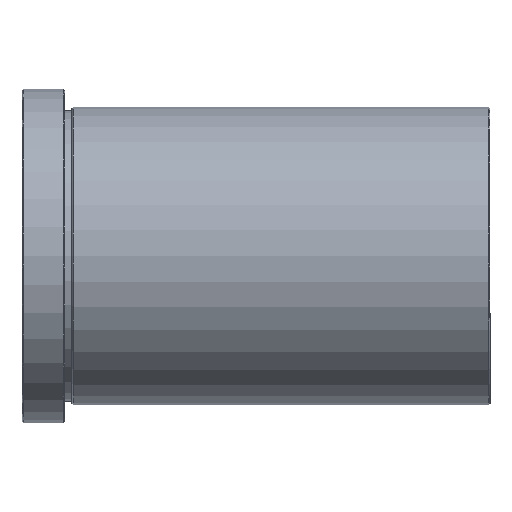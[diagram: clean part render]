
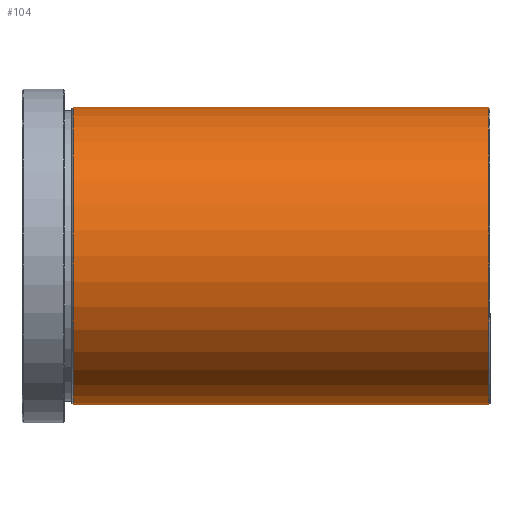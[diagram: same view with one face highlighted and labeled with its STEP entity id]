
A CAD part, top view. The second image highlights one B-rep face of the part: STEP entity #104.
In plain terms, the highlighted cylindrical face has radius 21 mm (diameter 42 mm), a partial arc.
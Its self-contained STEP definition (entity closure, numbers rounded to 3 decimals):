
#68 = EDGE_CURVE ( 'NONE', #209, #205, #680, .T. ) ;
#69 = EDGE_CURVE ( 'NONE', #140, #139, #679, .T. ) ;
#80 = EDGE_CURVE ( 'NONE', #140, #205, #461, .T. ) ;
#104 = ADVANCED_FACE ( 'NONE', ( #556 ), #557, .T. ) ;
#108 = EDGE_CURVE ( 'NONE', #139, #209, #565, .T. ) ;
#139 = VERTEX_POINT ( 'NONE', #587 ) ;
#140 = VERTEX_POINT ( 'NONE', #592 ) ;
#205 = VERTEX_POINT ( 'NONE', #607 ) ;
#209 = VERTEX_POINT ( 'NONE', #606 ) ;
#221 = ORIENTED_EDGE ( 'NONE', *, *, #69, .T. ) ;
#222 = ORIENTED_EDGE ( 'NONE', *, *, #80, .F. ) ;
#228 = ORIENTED_EDGE ( 'NONE', *, *, #68, .T. ) ;
#229 = ORIENTED_EDGE ( 'NONE', *, *, #108, .T. ) ;
#237 = EDGE_LOOP ( 'NONE', ( #221, #229, #228, #222 ) ) ;
#425 = CARTESIAN_POINT ( 'NONE',  ( -0.2, 0., 0. ) ) ;
#426 = DIRECTION ( 'NONE',  ( -1., 0., 0. ) ) ;
#427 = DIRECTION ( 'NONE',  ( 0., 1., 0. ) ) ;
#428 = CARTESIAN_POINT ( 'NONE',  ( -58.8, 0., 0. ) ) ;
#429 = DIRECTION ( 'NONE',  ( 1., 0., 0. ) ) ;
#430 = DIRECTION ( 'NONE',  ( 0., -1., 0. ) ) ;
#461 = LINE ( 'NONE', #462, #701 ) ;
#462 = CARTESIAN_POINT ( 'NONE',  ( 0., 21., 0. ) ) ;
#463 = DIRECTION ( 'NONE',  ( 1., 0., 0. ) ) ;
#553 = DIRECTION ( 'NONE',  ( 1., 0., 0. ) ) ;
#555 = CARTESIAN_POINT ( 'NONE',  ( 0., 0., 0. ) ) ;
#556 = FACE_OUTER_BOUND ( 'NONE', #237, .T. ) ;
#557 = CYLINDRICAL_SURFACE ( 'NONE', #756, 21. ) ;
#561 = DIRECTION ( 'NONE',  ( 0., 1., 0. ) ) ;
#565 = LINE ( 'NONE', #566, #752 ) ;
#566 = CARTESIAN_POINT ( 'NONE',  ( 0., -21., 0. ) ) ;
#575 = DIRECTION ( 'NONE',  ( 1., 0., 0. ) ) ;
#587 = CARTESIAN_POINT ( 'NONE',  ( -58.8, -21., 0. ) ) ;
#592 = CARTESIAN_POINT ( 'NONE',  ( -58.8, 21., 0. ) ) ;
#606 = CARTESIAN_POINT ( 'NONE',  ( -0.2, -21., 0. ) ) ;
#607 = CARTESIAN_POINT ( 'NONE',  ( -0.2, 21., 0. ) ) ;
#679 = CIRCLE ( 'NONE', #691, 21. ) ;
#680 = CIRCLE ( 'NONE', #683, 21. ) ;
#683 = AXIS2_PLACEMENT_3D ( 'NONE', #425, #426, #427 ) ;
#691 = AXIS2_PLACEMENT_3D ( 'NONE', #428, #429, #430 ) ;
#701 = VECTOR ( 'NONE', #463, 1000. ) ;
#752 = VECTOR ( 'NONE', #575, 1000. ) ;
#756 = AXIS2_PLACEMENT_3D ( 'NONE', #555, #553, #561 ) ;
